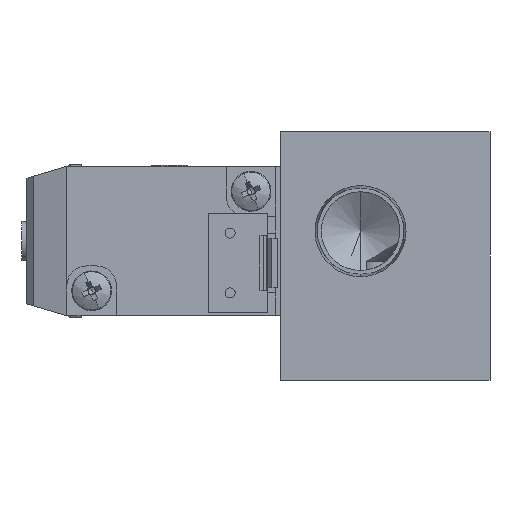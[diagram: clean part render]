
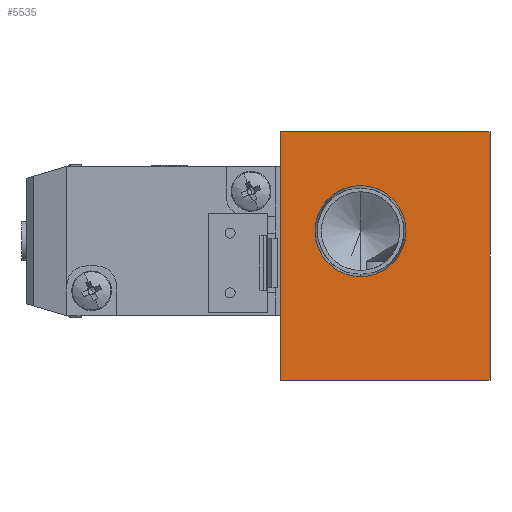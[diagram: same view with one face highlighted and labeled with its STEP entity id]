
A CAD part, left-side view. The second image highlights one B-rep face of the part: STEP entity #5535.
In plain terms, the highlighted planar face has unit normal (-1, 0, 0).
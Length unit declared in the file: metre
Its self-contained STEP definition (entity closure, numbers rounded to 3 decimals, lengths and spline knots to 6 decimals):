
#88 = FACE_OUTER_BOUND ( 'NONE', #11835, .T. ) ;
#441 = CARTESIAN_POINT ( 'NONE',  ( -0.019, 0.0105, -0.014 ) ) ;
#657 = ORIENTED_EDGE ( 'NONE', *, *, #6145, .F. ) ;
#1027 = LINE ( 'NONE', #1166, #8007 ) ;
#1166 = CARTESIAN_POINT ( 'NONE',  ( -0.019, 0., 0.011 ) ) ;
#1196 = VECTOR ( 'NONE', #9525, 1. ) ;
#1485 = LINE ( 'NONE', #8541, #1196 ) ;
#1923 = DIRECTION ( 'NONE',  ( -1., 0., 0. ) ) ;
#2842 = CARTESIAN_POINT ( 'NONE',  ( -0.019, 0.0025, 0.001 ) ) ;
#3016 = DIRECTION ( 'NONE',  ( 0., 1., 0. ) ) ;
#3442 = EDGE_CURVE ( 'NONE', #5454, #9026, #5390, .T. ) ;
#3543 = AXIS2_PLACEMENT_3D ( 'NONE', #2842, #9585, #3787 ) ;
#3614 = CARTESIAN_POINT ( 'NONE',  ( -0.019, 0.0025, -0.003574 ) ) ;
#3787 = DIRECTION ( 'NONE',  ( 0., 0., 1. ) ) ;
#4010 = ORIENTED_EDGE ( 'NONE', *, *, #6303, .F. ) ;
#4396 = VECTOR ( 'NONE', #9696, 1. ) ;
#4451 = CIRCLE ( 'NONE', #3543, 0.004574 ) ;
#4902 = CARTESIAN_POINT ( 'NONE',  ( -0.019, -0.0105, -0.0015 ) ) ;
#5001 = ORIENTED_EDGE ( 'NONE', *, *, #11851, .T. ) ;
#5195 = CARTESIAN_POINT ( 'NONE',  ( -0.019, 0.0105, -0.0015 ) ) ;
#5369 = FACE_BOUND ( 'NONE', #12430, .T. ) ;
#5390 = CIRCLE ( 'NONE', #9161, 0.004574 ) ;
#5454 = VERTEX_POINT ( 'NONE', #3614 ) ;
#5535 = ADVANCED_FACE ( 'NONE', ( #5369, #88 ), #7611, .T. ) ;
#6047 = CARTESIAN_POINT ( 'NONE',  ( -0.019, 0.0025, 0.001 ) ) ;
#6060 = DIRECTION ( 'NONE',  ( 1., 0., 0. ) ) ;
#6087 = DIRECTION ( 'NONE',  ( 0., 0., 1. ) ) ;
#6145 = EDGE_CURVE ( 'NONE', #11127, #8529, #1485, .T. ) ;
#6303 = EDGE_CURVE ( 'NONE', #9984, #11127, #7570, .T. ) ;
#6484 = LINE ( 'NONE', #5195, #12014 ) ;
#6649 = CARTESIAN_POINT ( 'NONE',  ( -0.019, -0.0105, -0.014 ) ) ;
#6898 = AXIS2_PLACEMENT_3D ( 'NONE', #6649, #1923, #8608 ) ;
#7046 = CARTESIAN_POINT ( 'NONE',  ( -0.019, -0.0105, 0.011 ) ) ;
#7570 = LINE ( 'NONE', #4902, #4396 ) ;
#7611 = PLANE ( 'NONE',  #6898 ) ;
#7876 = VERTEX_POINT ( 'NONE', #8589 ) ;
#8007 = VECTOR ( 'NONE', #3016, 1. ) ;
#8151 = ORIENTED_EDGE ( 'NONE', *, *, #3442, .T. ) ;
#8418 = ORIENTED_EDGE ( 'NONE', *, *, #8432, .T. ) ;
#8432 = EDGE_CURVE ( 'NONE', #9984, #7876, #1027, .T. ) ;
#8529 = VERTEX_POINT ( 'NONE', #441 ) ;
#8541 = CARTESIAN_POINT ( 'NONE',  ( -0.019, 0., -0.014 ) ) ;
#8589 = CARTESIAN_POINT ( 'NONE',  ( -0.019, 0.0105, 0.011 ) ) ;
#8590 = EDGE_CURVE ( 'NONE', #8529, #7876, #6484, .T. ) ;
#8608 = DIRECTION ( 'NONE',  ( 0., 0., 1. ) ) ;
#8782 = ORIENTED_EDGE ( 'NONE', *, *, #8590, .F. ) ;
#9026 = VERTEX_POINT ( 'NONE', #11855 ) ;
#9161 = AXIS2_PLACEMENT_3D ( 'NONE', #6047, #6060, #6087 ) ;
#9525 = DIRECTION ( 'NONE',  ( 0., 1., 0. ) ) ;
#9585 = DIRECTION ( 'NONE',  ( 1., 0., 0. ) ) ;
#9696 = DIRECTION ( 'NONE',  ( 0., 0., -1. ) ) ;
#9984 = VERTEX_POINT ( 'NONE', #7046 ) ;
#11127 = VERTEX_POINT ( 'NONE', #12369 ) ;
#11835 = EDGE_LOOP ( 'NONE', ( #8782, #657, #4010, #8418 ) ) ;
#11851 = EDGE_CURVE ( 'NONE', #9026, #5454, #4451, .T. ) ;
#11855 = CARTESIAN_POINT ( 'NONE',  ( -0.019, 0.0025, 0.005574 ) ) ;
#12014 = VECTOR ( 'NONE', #12026, 1. ) ;
#12026 = DIRECTION ( 'NONE',  ( 0., 0., 1. ) ) ;
#12369 = CARTESIAN_POINT ( 'NONE',  ( -0.019, -0.0105, -0.014 ) ) ;
#12430 = EDGE_LOOP ( 'NONE', ( #5001, #8151 ) ) ;
